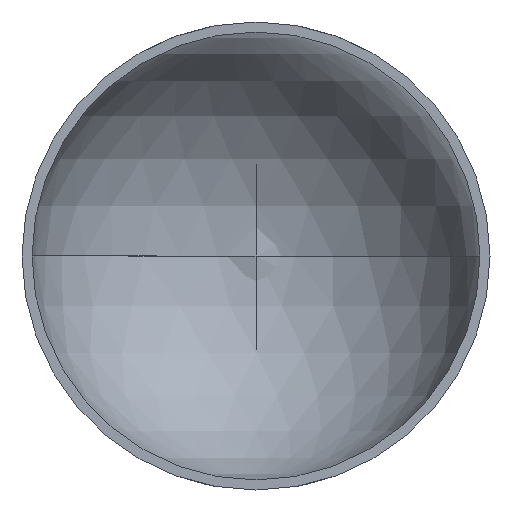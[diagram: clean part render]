
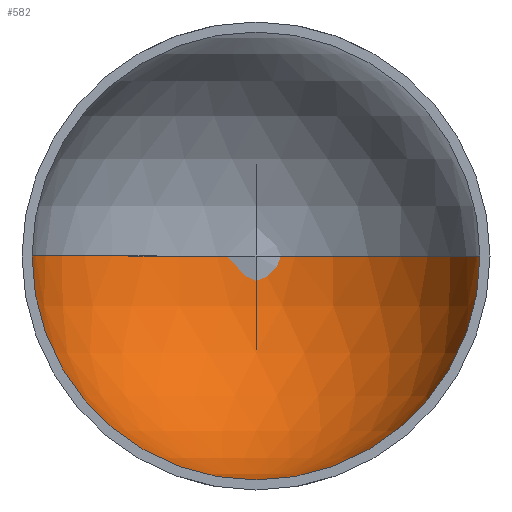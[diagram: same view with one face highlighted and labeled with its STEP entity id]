
A CAD part, front view. The second image highlights one B-rep face of the part: STEP entity #582.
In plain terms, the highlighted spherical face has radius 67 mm.
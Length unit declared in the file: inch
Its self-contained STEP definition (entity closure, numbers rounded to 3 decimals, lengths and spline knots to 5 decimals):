
#15 = CARTESIAN_POINT ( 'NONE',  ( 2.6378, 5.11811, 0. ) ) ;
#16 = DIRECTION ( 'NONE',  ( 0., -1., 0. ) ) ;
#17 = ORIENTED_EDGE ( 'NONE', *, *, #152, .T. ) ;
#97 = CARTESIAN_POINT ( 'NONE',  ( 0., 5.11811, 0. ) ) ;
#102 = DIRECTION ( 'NONE',  ( 0., 0., 1. ) ) ;
#108 = ORIENTED_EDGE ( 'NONE', *, *, #697, .F. ) ;
#116 = CARTESIAN_POINT ( 'NONE',  ( 0., 7.75591, 0. ) ) ;
#117 = VERTEX_POINT ( 'NONE', #116 ) ;
#152 = EDGE_CURVE ( 'NONE', #117, #326, #458, .T. ) ;
#169 = AXIS2_PLACEMENT_3D ( 'NONE', #97, #102, #277 ) ;
#209 = CARTESIAN_POINT ( 'NONE',  ( 0., 5.11811, 0. ) ) ;
#237 = EDGE_LOOP ( 'NONE', ( #108, #17, #510 ) ) ;
#239 = DIRECTION ( 'NONE',  ( 1., 0., 0. ) ) ;
#277 = DIRECTION ( 'NONE',  ( 1., 0., 0. ) ) ;
#326 = VERTEX_POINT ( 'NONE', #367 ) ;
#332 = CIRCLE ( 'NONE', #428, 2.6378 ) ;
#348 = DIRECTION ( 'NONE',  ( 0., 0., 1. ) ) ;
#367 = CARTESIAN_POINT ( 'NONE',  ( -2.6378, 5.11811, 0. ) ) ;
#409 = DIRECTION ( 'NONE',  ( 0., 0., -1. ) ) ;
#415 = EDGE_CURVE ( 'NONE', #326, #681, #449, .T. ) ;
#428 = AXIS2_PLACEMENT_3D ( 'NONE', #704, #409, #644 ) ;
#449 = CIRCLE ( 'NONE', #615, 2.6378 ) ;
#458 = CIRCLE ( 'NONE', #639, 2.6378 ) ;
#461 = CARTESIAN_POINT ( 'NONE',  ( 0., 5.11811, 0. ) ) ;
#510 = ORIENTED_EDGE ( 'NONE', *, *, #415, .T. ) ;
#554 = FACE_OUTER_BOUND ( 'NONE', #237, .T. ) ;
#582 = ADVANCED_FACE ( 'NONE', ( #554 ), #611, .F. ) ;
#611 = SPHERICAL_SURFACE ( 'NONE', #169, 2.6378 ) ;
#615 = AXIS2_PLACEMENT_3D ( 'NONE', #209, #16, #634 ) ;
#634 = DIRECTION ( 'NONE',  ( 1., 0., 0. ) ) ;
#639 = AXIS2_PLACEMENT_3D ( 'NONE', #461, #348, #239 ) ;
#644 = DIRECTION ( 'NONE',  ( -1., 0., 0. ) ) ;
#681 = VERTEX_POINT ( 'NONE', #15 ) ;
#697 = EDGE_CURVE ( 'NONE', #117, #681, #332, .T. ) ;
#704 = CARTESIAN_POINT ( 'NONE',  ( 0., 5.11811, 0. ) ) ;
